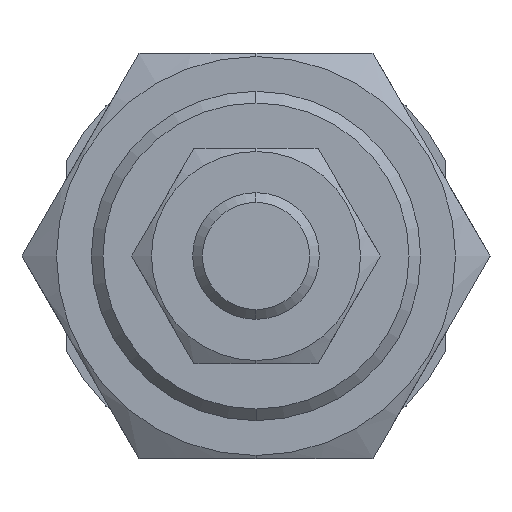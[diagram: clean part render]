
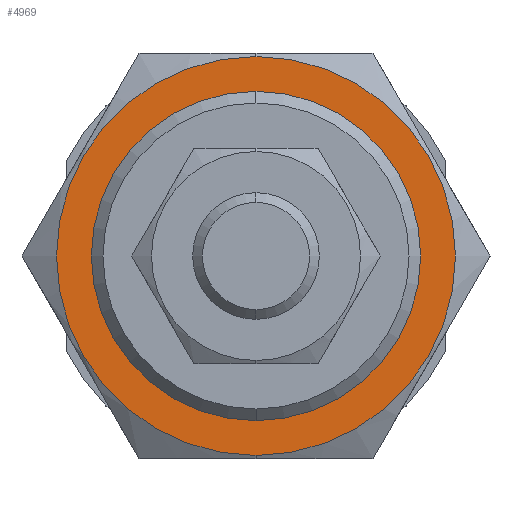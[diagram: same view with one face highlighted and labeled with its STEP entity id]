
A CAD part, left-side view. The second image highlights one B-rep face of the part: STEP entity #4969.
In plain terms, the highlighted planar face has unit normal (-1, 0, 0).
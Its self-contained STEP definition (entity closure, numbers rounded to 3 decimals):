
#17 = DIRECTION ( 'NONE',  ( 0., 1., 0. ) ) ;
#42 = AXIS2_PLACEMENT_3D ( 'NONE', #2897, #2866, #17 ) ;
#440 = DIRECTION ( 'NONE',  ( 0., 0., -1. ) ) ;
#715 = VERTEX_POINT ( 'NONE', #1215 ) ;
#727 = CIRCLE ( 'NONE', #4880, 13. ) ;
#853 = FACE_BOUND ( 'NONE', #2255, .T. ) ;
#867 = DIRECTION ( 'NONE',  ( 1., 0., 0. ) ) ;
#1008 = VERTEX_POINT ( 'NONE', #3546 ) ;
#1215 = CARTESIAN_POINT ( 'NONE',  ( -11., 0., 13. ) ) ;
#1293 = PLANE ( 'NONE',  #42 ) ;
#1306 = CARTESIAN_POINT ( 'NONE',  ( -11., 0., 0. ) ) ;
#1477 = VERTEX_POINT ( 'NONE', #4330 ) ;
#1585 = CARTESIAN_POINT ( 'NONE',  ( -11., 0., 15.75 ) ) ;
#1660 = AXIS2_PLACEMENT_3D ( 'NONE', #3384, #5008, #4172 ) ;
#1714 = ORIENTED_EDGE ( 'NONE', *, *, #3365, .F. ) ;
#1768 = AXIS2_PLACEMENT_3D ( 'NONE', #3907, #2310, #3504 ) ;
#1830 = CARTESIAN_POINT ( 'NONE',  ( -11., 0., 0. ) ) ;
#1964 = ORIENTED_EDGE ( 'NONE', *, *, #2447, .T. ) ;
#2083 = AXIS2_PLACEMENT_3D ( 'NONE', #1830, #5130, #3075 ) ;
#2127 = ORIENTED_EDGE ( 'NONE', *, *, #2617, .F. ) ;
#2255 = EDGE_LOOP ( 'NONE', ( #4427, #1964 ) ) ;
#2310 = DIRECTION ( 'NONE',  ( 1., 0., 0. ) ) ;
#2447 = EDGE_CURVE ( 'NONE', #1477, #715, #3552, .T. ) ;
#2561 = EDGE_LOOP ( 'NONE', ( #2127, #1714 ) ) ;
#2617 = EDGE_CURVE ( 'NONE', #1008, #3191, #2781, .T. ) ;
#2781 = CIRCLE ( 'NONE', #1660, 15.75 ) ;
#2866 = DIRECTION ( 'NONE',  ( 1., 0., 0. ) ) ;
#2897 = CARTESIAN_POINT ( 'NONE',  ( -11., 0., 0. ) ) ;
#2974 = CIRCLE ( 'NONE', #1768, 15.75 ) ;
#3075 = DIRECTION ( 'NONE',  ( 0., 0., -1. ) ) ;
#3191 = VERTEX_POINT ( 'NONE', #1585 ) ;
#3365 = EDGE_CURVE ( 'NONE', #3191, #1008, #2974, .T. ) ;
#3384 = CARTESIAN_POINT ( 'NONE',  ( -11., 0., 0. ) ) ;
#3504 = DIRECTION ( 'NONE',  ( 0., 0., -1. ) ) ;
#3546 = CARTESIAN_POINT ( 'NONE',  ( -11., 0., -15.75 ) ) ;
#3552 = CIRCLE ( 'NONE', #2083, 13. ) ;
#3907 = CARTESIAN_POINT ( 'NONE',  ( -11., 0., 0. ) ) ;
#4172 = DIRECTION ( 'NONE',  ( 0., 0., -1. ) ) ;
#4330 = CARTESIAN_POINT ( 'NONE',  ( -11., 0., -13. ) ) ;
#4427 = ORIENTED_EDGE ( 'NONE', *, *, #4644, .T. ) ;
#4644 = EDGE_CURVE ( 'NONE', #715, #1477, #727, .T. ) ;
#4880 = AXIS2_PLACEMENT_3D ( 'NONE', #1306, #867, #440 ) ;
#4969 = ADVANCED_FACE ( 'NONE', ( #5005, #853 ), #1293, .F. ) ;
#5005 = FACE_OUTER_BOUND ( 'NONE', #2561, .T. ) ;
#5008 = DIRECTION ( 'NONE',  ( 1., 0., 0. ) ) ;
#5130 = DIRECTION ( 'NONE',  ( 1., 0., 0. ) ) ;
